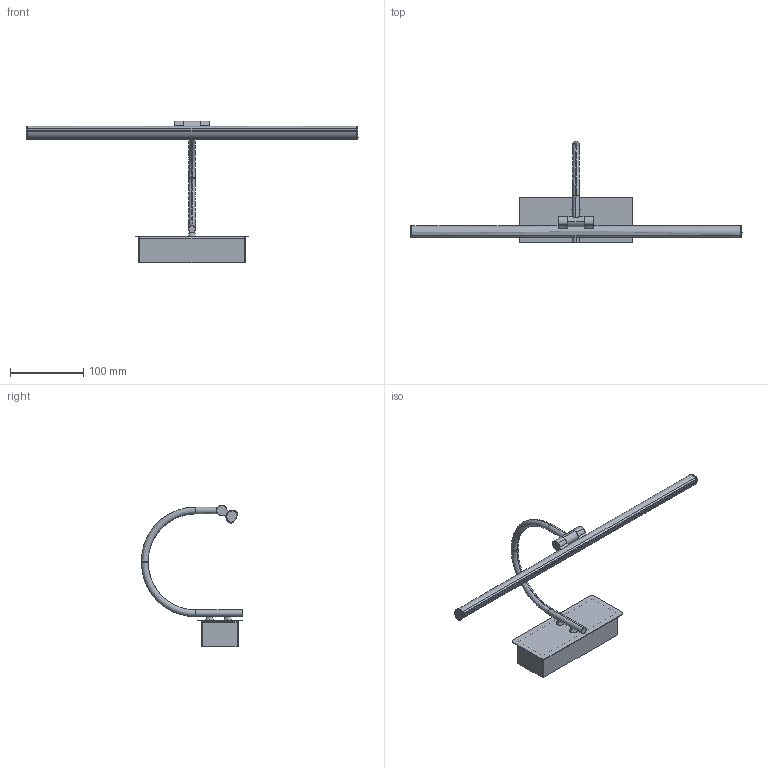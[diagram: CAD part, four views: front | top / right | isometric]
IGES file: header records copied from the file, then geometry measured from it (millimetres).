
Start section: SolidWorks IGES file using analytic representation for surfaces
Global section: file name: Z:\Modele 3D_WWW\_KOLEKCJE_WWW\GIOTTO-LED\GIOTTO-LED-S-8168\GIOTTO-LED-S-8168.IGS; native system: SolidWorks 2020; preprocessor: SolidWorks 2020; author: gabriela.tworek; date: 210401.210020; units: millimetre
Bounding box: 452.2 x 137.65 x 192.5 mm (x, y, z)
Surface area: 105044.6 mm2 (no closed solid volume)
Topology: 0 solids, 0 shells, 174 faces, 1606 edges, 1592 vertices
Faces by surface type: revolution 97, bspline 77
